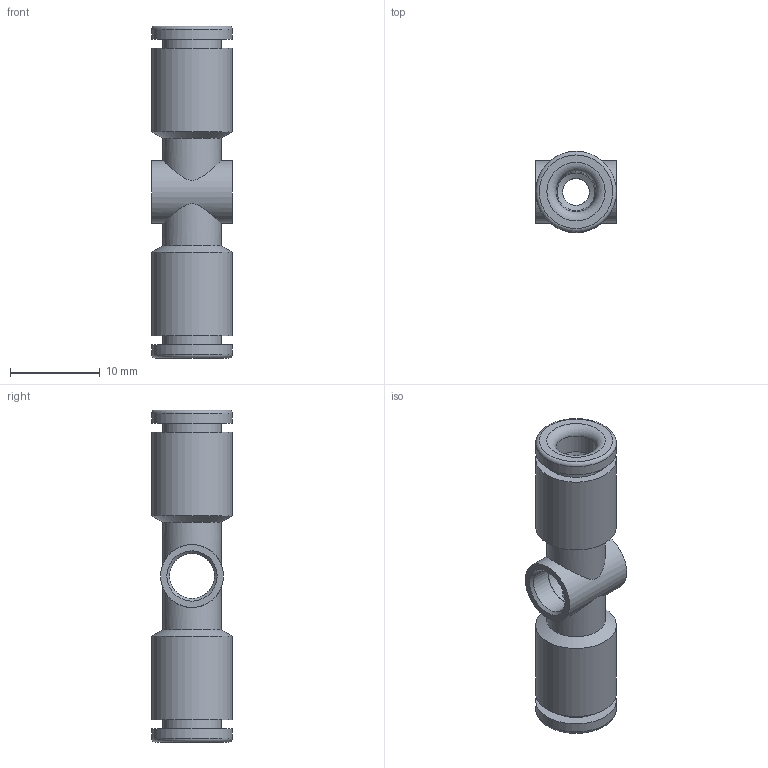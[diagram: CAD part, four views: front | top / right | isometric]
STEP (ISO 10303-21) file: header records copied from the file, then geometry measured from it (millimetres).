
FILE_DESCRIPTION(('Bauteilbeschreibung','HiCAD-Model','HiCAD-STEP-TRANSLATION','Bauteilbeschreibung'),'2;1');
FILE_NAME('B:/ABGLEICH/ZEICHNUNGEN/STEP FÜR INTERNET/STEP/201301_IPSO_014_4_M5.STP','2011-08-03T11:45:01+00:00',('Konstrukteur'),('Konstrukteur Firma GmbH'),' HiCAD neXt 2008, Step 3.1.1401.2J ','HiCAD neXt 2008','confidential');
FILE_SCHEMA(('AUTOMOTIVE_DESIGN { 1 2 10303 214 0 1 1 1 }'));
Length unit declared in the file: millimetre
Products named in the file (4): A01301_IPSO_014_4_M5; DR4_1; DR401; R201301
Assembly tree (3 placements, depth 2):
  A01301_IPSO_014_4_M5
    DR4_1
    DR401
    R201301
Bounding box: 9 x 9 x 37 mm (x, y, z)
Volume: 1137.3 mm3; surface area: 2335.8 mm2
Topology: 3 solids, 3 shells, 66 faces, 134 edges, 80 vertices
Faces by surface type: cylinder 26, cone 18, plane 14, torus 8
Full cylindrical faces by diameter (mm): 3 x2, 4.2 x4, 4.5 x2, 5 x4, 5.3 x1, 6.5 x2, 6.55 x2, 6.6 x2, 7 x1, 7.2 x2, 9 x4
Entity records: 4559 total; most frequent: CARTESIAN_POINT 2986, DIRECTION 272, AXIS2_PLACEMENT_3D 136, EDGE_LOOP 136, ORIENTED_EDGE 136, FACE_BOUND 70, EDGE_CURVE 68, VERTEX_POINT 68
